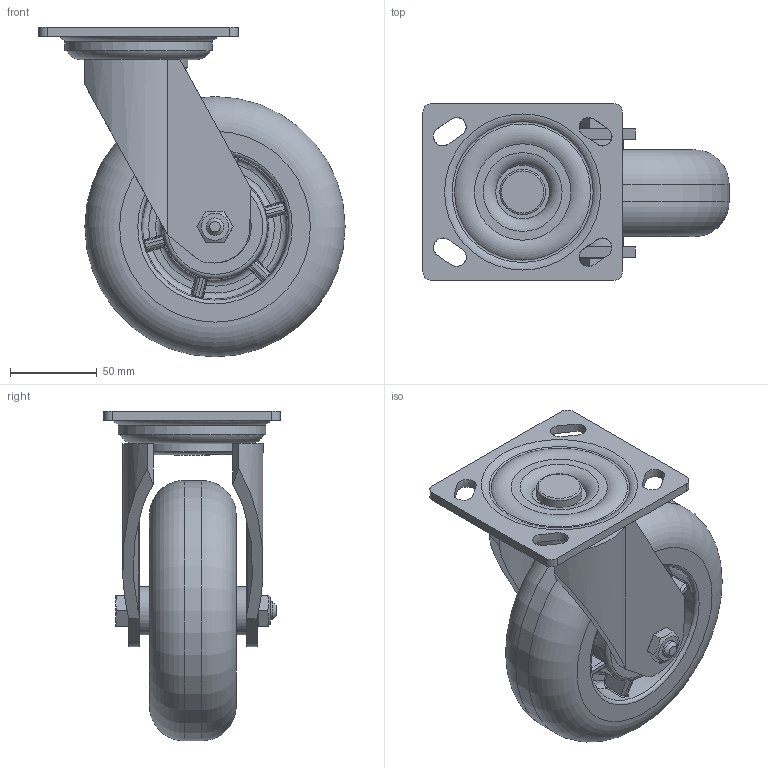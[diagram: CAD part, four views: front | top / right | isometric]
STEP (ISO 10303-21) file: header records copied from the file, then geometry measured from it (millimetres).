
FILE_DESCRIPTION(/* description */ (''),/* implementation_level */ '2;1');
FILE_NAME(/* name */ '35C09_6_F.stp',/* time_stamp */ '2022-10-17T13:02:10+08:00',/* author */ (''),/* organization */ (''),/* preprocessor_version */ 'ST-DEVELOPER v14',/* originating_system */ 'SIEMENS PLM Software NX 8.0',/* authorisation */ '');
FILE_SCHEMA (('AUTOMOTIVE_DESIGN { 1 0 10303 214 3 1 1 1 }'));
Length unit declared in the file: millimetre
Products named in the file (1): 35C09_6_F
Bounding box: 176.5 x 102 x 190 mm (x, y, z)
Volume: 884697.9 mm3; surface area: 169810.8 mm2
Topology: 1 solids, 1 shells, 953 faces, 2640 edges, 1667 vertices
Faces by surface type: plane 396, cylinder 202, bspline 194, torus 70, sphere 49, cone 38, extrusion 4
Full cylindrical faces by diameter (mm): 10.104 x2, 12 x1, 12.3 x2, 15 x1, 17 x2, 18 x1, 20.5 x2, 22.276 x1, 24.188 x4, 26.256 x1, 28 x2, 32.812 x2, 39.85 x2, 40 x2, 57 x1, 85 x1, 150 x1
Entity records: 48607 total; most frequent: CARTESIAN_POINT 27098, ORIENTED_EDGE 4744, DIRECTION 4119, EDGE_CURVE 2372, AXIS2_PLACEMENT_3D 1791, VERTEX_POINT 1527, EDGE_LOOP 1157, CIRCLE 1018
